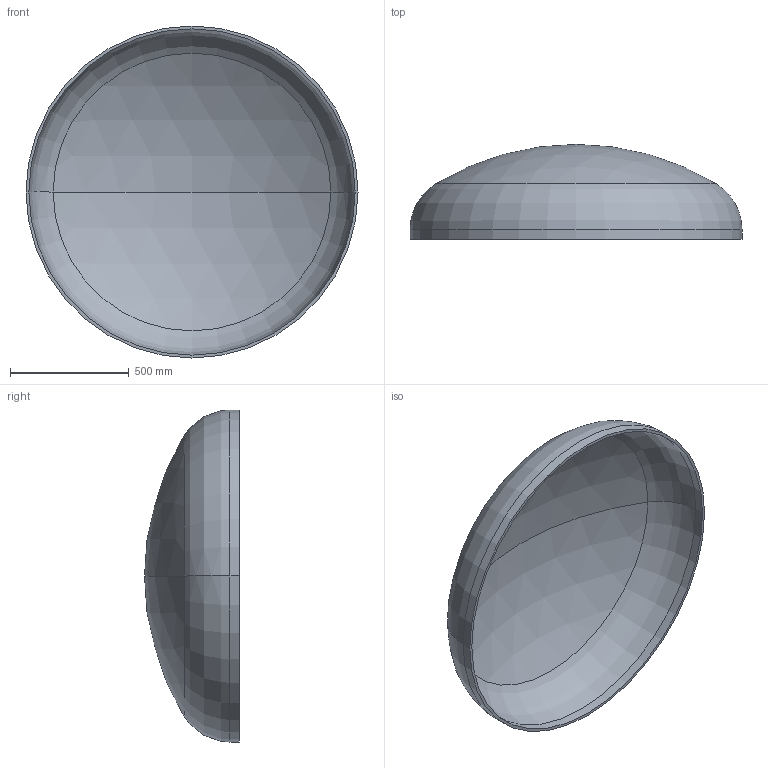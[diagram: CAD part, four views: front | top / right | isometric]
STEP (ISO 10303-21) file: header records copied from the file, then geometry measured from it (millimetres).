
FILE_DESCRIPTION (( 'STEP AP203' ), '1' );
FILE_NAME ('DIN 28013 Korbbogenform_-_Boden DIN 28013 - 1400 x 40 - I - s=12.step', '2016-07-01T10:08:00', ( '' ), ( '' ), 'SwSTEP 2.0', 'SolidWorks 2013', '' );
FILE_SCHEMA (( 'CONFIG_CONTROL_DESIGN' ));
Length unit declared in the file: millimetre
Products named in the file (1): DIN 28013 Korbbogenform_-_Boden DIN 28013 - 1400 x 40 - I - s=12
Bounding box: 1400 x 400.45 x 1400 mm (x, y, z)
Volume: 27375243.4 mm3; surface area: 4615166.8 mm2
Topology: 1 solids, 1 shells, 13 faces, 24 edges, 14 vertices
Faces by surface type: torus 4, cylinder 4, sphere 4, plane 1
Entity records: 407 total; most frequent: DIRECTION 72, CARTESIAN_POINT 52, ORIENTED_EDGE 48, AXIS2_PLACEMENT_3D 34, EDGE_CURVE 24, CIRCLE 20, EDGE_LOOP 14, VERTEX_POINT 14
